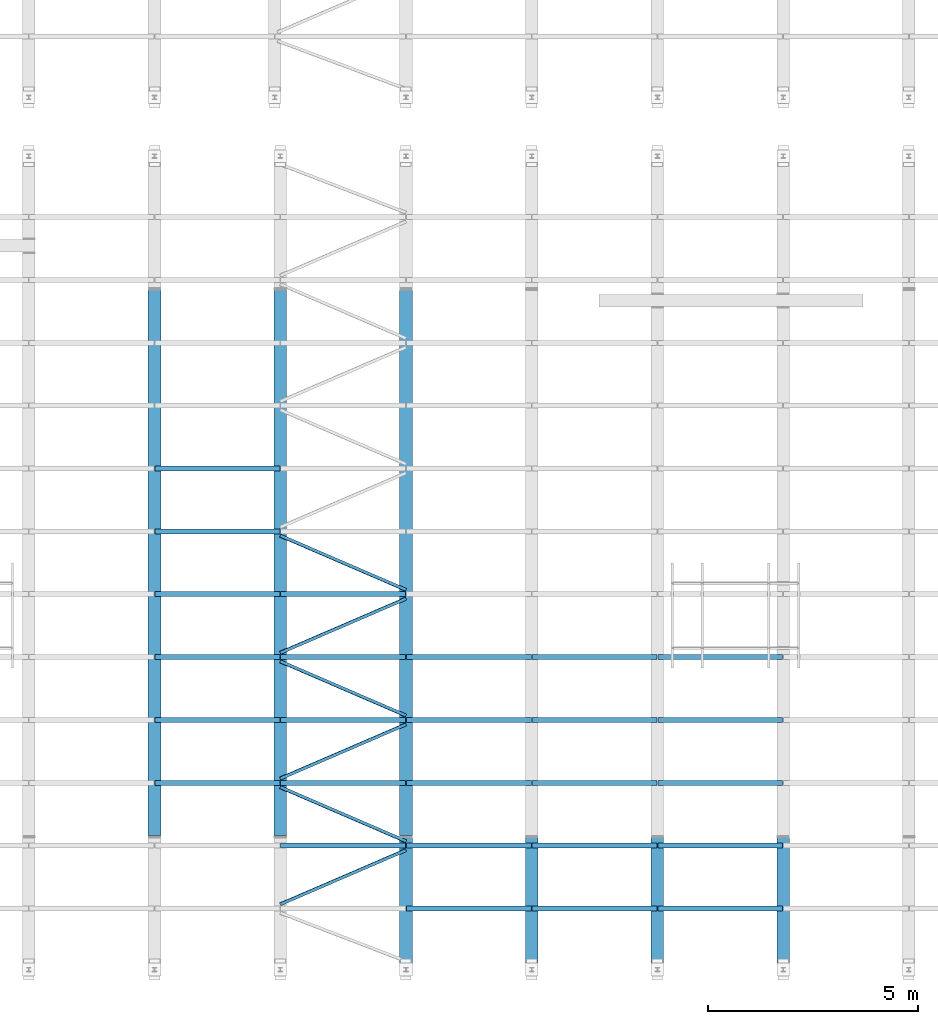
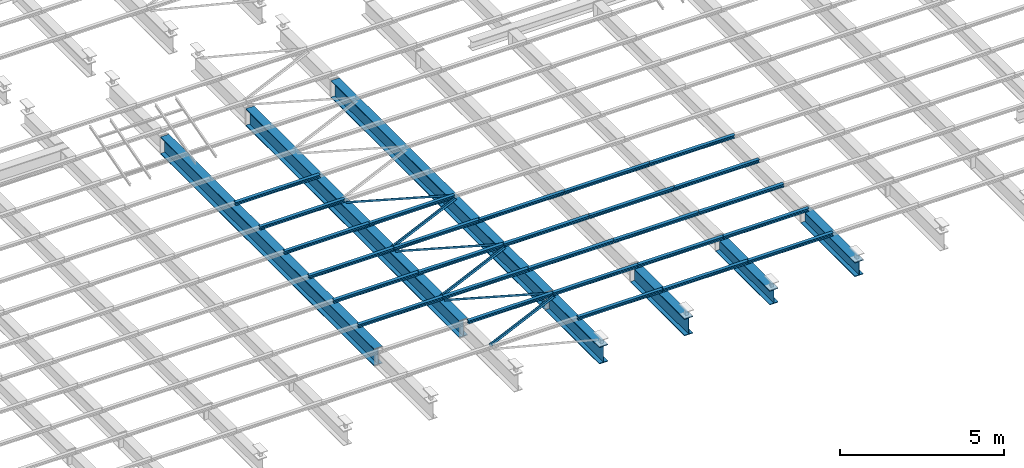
# One storey, part 44 of 139: 39 beams.
"""IFC2X3 building model written with IfcOpenShell, lengths in metres."""

from ifc_helpers import new_model, entity, si_unit, converted_unit, derived_unit, frame, origin, place, context, subcontext, project, spatial, polyline, outline, extrude, material, element, save


model = new_model("IFC2X3")

# Units and contexts
model_context = context("Model", 3, precision=1e-05, world=origin())
body_context = subcontext(model_context, "Body", "Model", "MODEL_VIEW")
ifc_project = project(units=[si_unit("LENGTHUNIT", "METRE"), si_unit("AREAUNIT", "SQUARE_METRE"), si_unit("VOLUMEUNIT", "CUBIC_METRE"), si_unit("MASSUNIT", "GRAM", prefix="KILO"), converted_unit("PLANEANGLEUNIT", "DEGREE", entity("IfcPlaneAngleMeasure", 0.0174532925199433), si_unit("PLANEANGLEUNIT", "RADIAN"), dimensions=[0, 0, 0, 0, 0, 0, 0]), derived_unit("THERMALTRANSMITTANCEUNIT", [(si_unit("POWERUNIT", "WATT"), 1), (si_unit("THERMODYNAMICTEMPERATUREUNIT", "KELVIN"), -1), (si_unit("LENGTHUNIT", "METRE"), -2)]), derived_unit("VOLUMETRICFLOWRATEUNIT", [(si_unit("LENGTHUNIT", "METRE"), 3), (converted_unit("TIMEUNIT", "hour", entity("IfcTimeMeasure", 3600.0), si_unit("TIMEUNIT", "SECOND"), dimensions=[0, 0, 1, 0, 0, 0, 0]), -1), (si_unit("LENGTHUNIT", "METRE"), -1)])], contexts=[model_context])

# Site, building, storey
site_placement = place(None, origin())
site = spatial("IfcSite", under=ifc_project, at=site_placement, Name="TWP_Speiseverteilzentrum SBW VZ II", CompositionType="ELEMENT")
building_placement = place(site_placement, origin())
building = spatial("IfcBuilding", under=site, at=building_placement, Name="Speiseverteilzentrum SBW VZ II", CompositionType="ELEMENT")
storey_placement = place(building_placement, frame((0.0, 0.0, 7.1307)))
storey = spatial("IfcBuildingStorey", under=building, at=storey_placement, Name="Wartung_FFB", CompositionType="ELEMENT", Elevation=7.1307)

# Beams
ifc_material_1 = material(Name="S235")
beam_1_placement = place(storey_placement, frame((43.0500000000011, 26.9020742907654, -0.51), z_axis=(0.0, 0.0, 1.0), x_axis=(-1.0, 0.0, 0.0)))
element("IfcBeam", 1, at=beam_1_placement, inside=storey, material=ifc_material_1, Name="Stahlträger", context=body_context, shape_type="SweptSolid", body=[
    extrude(outline(polyline([(-0.15, 0.32), (-0.15, 0.294), (-0.00675000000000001, 0.294), (-0.00675000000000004, -0.294), (-0.15, -0.294), (-0.15, -0.32), (0.15, -0.32), (0.15, -0.294), (0.00674999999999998, -0.294), (0.00675000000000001, 0.294), (0.15, 0.294), (0.15, 0.32), (-0.15, 0.32)])), frame((0.0, 0.0, 0.0), z_axis=(0.0, 1.0, 0.0), x_axis=(-1.0, 0.0, 0.0)), (0.0, 0.0, 1.0), 13.014),
])
ifc_material_2 = material(Name="S235")
beam_2_placement = place(storey_placement, frame((46.0500000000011, 26.9020742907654, -0.51), z_axis=(0.0, 0.0, 1.0), x_axis=(-1.0, 0.0, 0.0)))
element("IfcBeam", 2, at=beam_2_placement, inside=storey, material=ifc_material_2, Name="Stahlträger", context=body_context, shape_type="SweptSolid", body=[
    extrude(outline(polyline([(-0.15, 0.32), (-0.15, 0.294), (-0.00675000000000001, 0.294), (-0.00675000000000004, -0.294), (-0.15, -0.294), (-0.15, -0.32), (0.15, -0.32), (0.15, -0.294), (0.00674999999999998, -0.294), (0.00675000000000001, 0.294), (0.15, 0.294), (0.15, 0.32), (-0.15, 0.32)])), frame((0.0, 0.0, 0.0), z_axis=(0.0, 1.0, 0.0), x_axis=(-1.0, 0.0, 0.0)), (0.0, 0.0, 1.0), 13.014),
])
ifc_material_3 = material(Name="S235")
beam_3_placement = place(storey_placement, frame((49.0500000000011, 26.9020742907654, -0.51), z_axis=(0.0, 0.0, 1.0), x_axis=(-1.0, 0.0, 0.0)))
element("IfcBeam", 3, at=beam_3_placement, inside=storey, material=ifc_material_3, Name="Stahlträger", context=body_context, shape_type="SweptSolid", body=[
    extrude(outline(polyline([(-0.15, 0.32), (-0.15, 0.294), (-0.00675000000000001, 0.294), (-0.00675000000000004, -0.294), (-0.15, -0.294), (-0.15, -0.32), (0.15, -0.32), (0.15, -0.294), (0.00674999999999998, -0.294), (0.00675000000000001, 0.294), (0.15, 0.294), (0.15, 0.32), (-0.15, 0.32)])), frame((0.0, 0.0, 0.0), z_axis=(0.0, 1.0, 0.0), x_axis=(-1.0, 0.0, 0.0)), (0.0, 0.0, 1.0), 13.014),
])
ifc_material_4 = material(Name="S235")
beam_4_placement = place(storey_placement, frame((49.0500000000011, 13.8380742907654, -0.51), z_axis=(0.0, 0.0, 1.0), x_axis=(-1.0, 0.0, 0.0)))
element("IfcBeam", 4, at=beam_4_placement, inside=storey, material=ifc_material_4, Name="Stahlträger", context=body_context, shape_type="SweptSolid", body=[
    extrude(outline(polyline([(-0.15, 0.32), (-0.15, 0.294), (-0.00675000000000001, 0.294), (-0.00675000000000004, -0.294), (-0.15, -0.294), (-0.15, -0.32), (0.15, -0.32), (0.15, -0.294), (0.00674999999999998, -0.294), (0.00675000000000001, 0.294), (0.15, 0.294), (0.15, 0.32), (-0.15, 0.32)])), frame((0.0, 0.0, 0.0), z_axis=(0.0, 1.0, 0.0), x_axis=(-1.0, 0.0, 0.0)), (0.0, 0.0, 1.0), 3.29792570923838),
])
ifc_material_5 = material(Name="S235")
beam_5_placement = place(storey_placement, frame((52.0500000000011, 13.8380742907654, -0.51), z_axis=(0.0, 0.0, 1.0), x_axis=(-1.0, 0.0, 0.0)))
element("IfcBeam", 5, at=beam_5_placement, inside=storey, material=ifc_material_5, Name="Stahlträger", context=body_context, shape_type="SweptSolid", body=[
    extrude(outline(polyline([(-0.15, 0.32), (-0.15, 0.294), (-0.00675000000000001, 0.294), (-0.00675000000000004, -0.294), (-0.15, -0.294), (-0.15, -0.32), (0.15, -0.32), (0.15, -0.294), (0.00674999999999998, -0.294), (0.00675000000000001, 0.294), (0.15, 0.294), (0.15, 0.32), (-0.15, 0.32)])), frame((0.0, 0.0, 0.0), z_axis=(0.0, 1.0, 0.0), x_axis=(-1.0, 0.0, 0.0)), (0.0, 0.0, 1.0), 3.29792570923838),
])
ifc_material_6 = material(Name="S235")
beam_6_placement = place(storey_placement, frame((58.0500000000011, 13.8380742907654, -0.46), z_axis=(0.0, 0.0, 1.0), x_axis=(-1.0, 0.0, 0.0)))
element("IfcBeam", 6, at=beam_6_placement, inside=storey, material=ifc_material_6, Name="Stahlträger", context=body_context, shape_type="SweptSolid", body=[
    extrude(outline(polyline([(-0.15, 0.27), (-0.15, 0.246), (-0.0062499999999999, 0.246), (-0.00624999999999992, -0.246), (-0.15, -0.246), (-0.15, -0.27), (0.15, -0.27), (0.15, -0.246), (0.00625000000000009, -0.246), (0.00625000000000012, 0.246), (0.15, 0.246), (0.15, 0.27), (-0.15, 0.27)])), frame((0.0, 0.0, 0.0), z_axis=(0.0, 1.0, 0.0), x_axis=(-1.0, 0.0, 0.0)), (0.0, 0.0, 1.0), 3.29792570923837),
])
ifc_material_7 = material(Name="S235")
beam_7_placement = place(storey_placement, frame((55.0500000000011, 13.8380742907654, -0.46), z_axis=(0.0, 0.0, 1.0), x_axis=(-1.0, 0.0, 0.0)))
element("IfcBeam", 7, at=beam_7_placement, inside=storey, material=ifc_material_7, Name="Stahlträger", context=body_context, shape_type="SweptSolid", body=[
    extrude(outline(polyline([(-0.15, 0.27), (-0.15, 0.246), (-0.0062499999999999, 0.246), (-0.00624999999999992, -0.246), (-0.15, -0.246), (-0.15, -0.27), (0.15, -0.27), (0.15, -0.246), (0.00625000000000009, -0.246), (0.00625000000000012, 0.246), (0.15, 0.246), (0.15, 0.27), (-0.15, 0.27)])), frame((0.0, 0.0, 0.0), z_axis=(0.0, 1.0, 0.0), x_axis=(-1.0, 0.0, 0.0)), (0.0, 0.0, 1.0), 3.29792570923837),
])
ifc_material_8 = material(Name="S235")
beam_8_placement = place(storey_placement, frame((43.0600000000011, 22.6450742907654, -0.133), z_axis=(0.0, 0.0, 1.0), x_axis=(0.0, -1.0, 0.0)))
element("IfcBeam", 8, at=beam_8_placement, inside=storey, material=ifc_material_8, Name="Nebenträger", context=body_context, shape_type="SweptSolid", body=[
    extrude(outline(polyline([(-0.06, 0.0570000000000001), (-0.06, 0.0490000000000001), (-0.00249999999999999, 0.0490000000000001), (-0.0025, -0.0489999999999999), (-0.06, -0.0489999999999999), (-0.06, -0.0569999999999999), (0.06, -0.0569999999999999), (0.06, -0.0489999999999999), (0.0025, -0.0489999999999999), (0.00250000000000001, 0.0490000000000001), (0.06, 0.0490000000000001), (0.06, 0.0570000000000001), (-0.06, 0.0570000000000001)])), frame((0.0, 0.0, 0.0), z_axis=(0.0, 1.0, 0.0), x_axis=(-1.0, 0.0, 0.0)), (0.0, 0.0, 1.0), 2.98),
])
ifc_material_9 = material(Name="S235")
beam_9_placement = place(storey_placement, frame((43.0600000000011, 21.1450742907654, -0.133), z_axis=(0.0, 0.0, 1.0), x_axis=(0.0, -1.0, 0.0)))
element("IfcBeam", 9, at=beam_9_placement, inside=storey, material=ifc_material_9, Name="Nebenträger", context=body_context, shape_type="SweptSolid", body=[
    extrude(outline(polyline([(-0.06, 0.0570000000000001), (-0.06, 0.0490000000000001), (-0.00249999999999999, 0.0490000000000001), (-0.0025, -0.0489999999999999), (-0.06, -0.0489999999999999), (-0.06, -0.0569999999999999), (0.06, -0.0569999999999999), (0.06, -0.0489999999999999), (0.0025, -0.0489999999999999), (0.00250000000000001, 0.0490000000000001), (0.06, 0.0490000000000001), (0.06, 0.0570000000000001), (-0.06, 0.0570000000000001)])), frame((0.0, 0.0, 0.0), z_axis=(0.0, 1.0, 0.0), x_axis=(-1.0, 0.0, 0.0)), (0.0, 0.0, 1.0), 2.98),
])
ifc_material_10 = material(Name="S235")
beam_10_placement = place(storey_placement, frame((43.0600000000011, 19.6450742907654, -0.133), z_axis=(0.0, 0.0, 1.0), x_axis=(0.0, -1.0, 0.0)))
element("IfcBeam", 10, at=beam_10_placement, inside=storey, material=ifc_material_10, Name="Nebenträger", context=body_context, shape_type="SweptSolid", body=[
    extrude(outline(polyline([(-0.06, 0.0570000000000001), (-0.06, 0.0490000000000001), (-0.00249999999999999, 0.0490000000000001), (-0.0025, -0.0489999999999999), (-0.06, -0.0489999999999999), (-0.06, -0.0569999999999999), (0.06, -0.0569999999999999), (0.06, -0.0489999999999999), (0.0025, -0.0489999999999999), (0.00250000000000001, 0.0490000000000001), (0.06, 0.0490000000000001), (0.06, 0.0570000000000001), (-0.06, 0.0570000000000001)])), frame((0.0, 0.0, 0.0), z_axis=(0.0, 1.0, 0.0), x_axis=(-1.0, 0.0, 0.0)), (0.0, 0.0, 1.0), 2.98),
])
ifc_material_11 = material(Name="S235")
beam_11_placement = place(storey_placement, frame((46.0600000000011, 19.6450742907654, -0.133), z_axis=(0.0, 0.0, 1.0), x_axis=(0.0, -1.0, 0.0)))
element("IfcBeam", 11, at=beam_11_placement, inside=storey, material=ifc_material_11, Name="Nebenträger", context=body_context, shape_type="SweptSolid", body=[
    extrude(outline(polyline([(-0.06, 0.0570000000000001), (-0.06, 0.0490000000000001), (-0.00249999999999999, 0.0490000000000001), (-0.0025, -0.0489999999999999), (-0.06, -0.0489999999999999), (-0.06, -0.0569999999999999), (0.06, -0.0569999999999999), (0.06, -0.0489999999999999), (0.0025, -0.0489999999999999), (0.00250000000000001, 0.0490000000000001), (0.06, 0.0490000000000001), (0.06, 0.0570000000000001), (-0.06, 0.0570000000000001)])), frame((0.0, 0.0, 0.0), z_axis=(0.0, 1.0, 0.0), x_axis=(-1.0, 0.0, 0.0)), (0.0, 0.0, 1.0), 2.98),
])
ifc_material_12 = material(Name="S235")
beam_12_placement = place(storey_placement, frame((43.0600000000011, 18.1450742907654, -0.133), z_axis=(0.0, 0.0, 1.0), x_axis=(0.0, -1.0, 0.0)))
element("IfcBeam", 12, at=beam_12_placement, inside=storey, material=ifc_material_12, Name="Nebenträger", context=body_context, shape_type="SweptSolid", body=[
    extrude(outline(polyline([(-0.06, 0.0570000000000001), (-0.06, 0.0490000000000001), (-0.00249999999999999, 0.0490000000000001), (-0.0025, -0.0489999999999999), (-0.06, -0.0489999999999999), (-0.06, -0.0569999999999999), (0.06, -0.0569999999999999), (0.06, -0.0489999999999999), (0.0025, -0.0489999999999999), (0.00250000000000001, 0.0490000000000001), (0.06, 0.0490000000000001), (0.06, 0.0570000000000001), (-0.06, 0.0570000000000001)])), frame((0.0, 0.0, 0.0), z_axis=(0.0, 1.0, 0.0), x_axis=(-1.0, 0.0, 0.0)), (0.0, 0.0, 1.0), 2.98),
])
ifc_material_13 = material(Name="S235")
beam_13_placement = place(storey_placement, frame((46.0600000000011, 18.1450742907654, -0.133), z_axis=(0.0, 0.0, 1.0), x_axis=(0.0, -1.0, 0.0)))
element("IfcBeam", 13, at=beam_13_placement, inside=storey, material=ifc_material_13, Name="Nebenträger", context=body_context, shape_type="SweptSolid", body=[
    extrude(outline(polyline([(-0.06, 0.0570000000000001), (-0.06, 0.0490000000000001), (-0.00249999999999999, 0.0490000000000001), (-0.0025, -0.0489999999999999), (-0.06, -0.0489999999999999), (-0.06, -0.0569999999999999), (0.06, -0.0569999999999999), (0.06, -0.0489999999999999), (0.0025, -0.0489999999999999), (0.00250000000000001, 0.0490000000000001), (0.06, 0.0490000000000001), (0.06, 0.0570000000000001), (-0.06, 0.0570000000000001)])), frame((0.0, 0.0, 0.0), z_axis=(0.0, 1.0, 0.0), x_axis=(-1.0, 0.0, 0.0)), (0.0, 0.0, 1.0), 2.98),
])
ifc_material_14 = material(Name="S235")
beam_14_placement = place(storey_placement, frame((49.0600000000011, 18.1450742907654, -0.133), z_axis=(0.0, 0.0, 1.0), x_axis=(0.0, -1.0, 0.0)))
element("IfcBeam", 14, at=beam_14_placement, inside=storey, material=ifc_material_14, Name="Nebenträger", context=body_context, shape_type="SweptSolid", body=[
    extrude(outline(polyline([(-0.06, 0.0570000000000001), (-0.06, 0.0490000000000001), (-0.00249999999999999, 0.0490000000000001), (-0.0025, -0.0489999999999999), (-0.06, -0.0489999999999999), (-0.06, -0.0569999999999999), (0.06, -0.0569999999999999), (0.06, -0.0489999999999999), (0.0025, -0.0489999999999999), (0.00250000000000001, 0.0490000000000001), (0.06, 0.0490000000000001), (0.06, 0.0570000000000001), (-0.06, 0.0570000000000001)])), frame((0.0, 0.0, 0.0), z_axis=(0.0, 1.0, 0.0), x_axis=(-1.0, 0.0, 0.0)), (0.0, 0.0, 1.0), 2.98),
])
ifc_material_15 = material(Name="S235")
beam_15_placement = place(storey_placement, frame((52.0600000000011, 18.1450742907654, -0.133), z_axis=(0.0, 0.0, 1.0), x_axis=(0.0, -1.0, 0.0)))
element("IfcBeam", 15, at=beam_15_placement, inside=storey, material=ifc_material_15, Name="Nebenträger", context=body_context, shape_type="SweptSolid", body=[
    extrude(outline(polyline([(-0.06, 0.0570000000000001), (-0.06, 0.0490000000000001), (-0.00249999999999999, 0.0490000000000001), (-0.0025, -0.0489999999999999), (-0.06, -0.0489999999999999), (-0.06, -0.0569999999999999), (0.06, -0.0569999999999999), (0.06, -0.0489999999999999), (0.0025, -0.0489999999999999), (0.00250000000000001, 0.0490000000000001), (0.06, 0.0490000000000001), (0.06, 0.0570000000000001), (-0.06, 0.0570000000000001)])), frame((0.0, 0.0, 0.0), z_axis=(0.0, 1.0, 0.0), x_axis=(-1.0, 0.0, 0.0)), (0.0, 0.0, 1.0), 2.98),
])
ifc_material_16 = material(Name="S235")
beam_16_placement = place(storey_placement, frame((55.0600000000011, 18.1450742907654, -0.133), z_axis=(0.0, 0.0, 1.0), x_axis=(0.0, -1.0, 0.0)))
element("IfcBeam", 16, at=beam_16_placement, inside=storey, material=ifc_material_16, Name="Nebenträger", context=body_context, shape_type="SweptSolid", body=[
    extrude(outline(polyline([(-0.06, 0.0570000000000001), (-0.06, 0.0490000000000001), (-0.00249999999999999, 0.0490000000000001), (-0.0025, -0.0489999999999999), (-0.06, -0.0489999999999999), (-0.06, -0.0569999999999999), (0.06, -0.0569999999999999), (0.06, -0.0489999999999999), (0.0025, -0.0489999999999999), (0.00250000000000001, 0.0490000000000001), (0.06, 0.0490000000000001), (0.06, 0.0570000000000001), (-0.06, 0.0570000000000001)])), frame((0.0, 0.0, 0.0), z_axis=(0.0, 1.0, 0.0), x_axis=(-1.0, 0.0, 0.0)), (0.0, 0.0, 1.0), 2.98),
])
ifc_material_17 = material(Name="S235")
beam_17_placement = place(storey_placement, frame((43.0600000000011, 16.6450742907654, -0.133), z_axis=(0.0, 0.0, 1.0), x_axis=(0.0, -1.0, 0.0)))
element("IfcBeam", 17, at=beam_17_placement, inside=storey, material=ifc_material_17, Name="Nebenträger", context=body_context, shape_type="SweptSolid", body=[
    extrude(outline(polyline([(-0.06, 0.0570000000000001), (-0.06, 0.0490000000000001), (-0.00249999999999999, 0.0490000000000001), (-0.0025, -0.0489999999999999), (-0.06, -0.0489999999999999), (-0.06, -0.0569999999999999), (0.06, -0.0569999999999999), (0.06, -0.0489999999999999), (0.0025, -0.0489999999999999), (0.00250000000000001, 0.0490000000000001), (0.06, 0.0490000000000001), (0.06, 0.0570000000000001), (-0.06, 0.0570000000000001)])), frame((0.0, 0.0, 0.0), z_axis=(0.0, 1.0, 0.0), x_axis=(-1.0, 0.0, 0.0)), (0.0, 0.0, 1.0), 2.98),
])
ifc_material_18 = material(Name="S235")
beam_18_placement = place(storey_placement, frame((46.0600000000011, 16.6450742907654, -0.133), z_axis=(0.0, 0.0, 1.0), x_axis=(0.0, -1.0, 0.0)))
element("IfcBeam", 18, at=beam_18_placement, inside=storey, material=ifc_material_18, Name="Nebenträger", context=body_context, shape_type="SweptSolid", body=[
    extrude(outline(polyline([(-0.06, 0.0570000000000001), (-0.06, 0.0490000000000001), (-0.00249999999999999, 0.0490000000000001), (-0.0025, -0.0489999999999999), (-0.06, -0.0489999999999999), (-0.06, -0.0569999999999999), (0.06, -0.0569999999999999), (0.06, -0.0489999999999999), (0.0025, -0.0489999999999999), (0.00250000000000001, 0.0490000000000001), (0.06, 0.0490000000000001), (0.06, 0.0570000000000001), (-0.06, 0.0570000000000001)])), frame((0.0, 0.0, 0.0), z_axis=(0.0, 1.0, 0.0), x_axis=(-1.0, 0.0, 0.0)), (0.0, 0.0, 1.0), 2.98),
])
ifc_material_19 = material(Name="S235")
beam_19_placement = place(storey_placement, frame((49.0600000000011, 16.6450742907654, -0.133), z_axis=(0.0, 0.0, 1.0), x_axis=(0.0, -1.0, 0.0)))
element("IfcBeam", 19, at=beam_19_placement, inside=storey, material=ifc_material_19, Name="Nebenträger", context=body_context, shape_type="SweptSolid", body=[
    extrude(outline(polyline([(-0.06, 0.0570000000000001), (-0.06, 0.0490000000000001), (-0.00249999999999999, 0.0490000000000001), (-0.0025, -0.0489999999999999), (-0.06, -0.0489999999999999), (-0.06, -0.0569999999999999), (0.06, -0.0569999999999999), (0.06, -0.0489999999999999), (0.0025, -0.0489999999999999), (0.00250000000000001, 0.0490000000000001), (0.06, 0.0490000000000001), (0.06, 0.0570000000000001), (-0.06, 0.0570000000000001)])), frame((0.0, 0.0, 0.0), z_axis=(0.0, 1.0, 0.0), x_axis=(-1.0, 0.0, 0.0)), (0.0, 0.0, 1.0), 2.98),
])
ifc_material_20 = material(Name="S235")
beam_20_placement = place(storey_placement, frame((52.0600000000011, 16.6450742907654, -0.133), z_axis=(0.0, 0.0, 1.0), x_axis=(0.0, -1.0, 0.0)))
element("IfcBeam", 20, at=beam_20_placement, inside=storey, material=ifc_material_20, Name="Nebenträger", context=body_context, shape_type="SweptSolid", body=[
    extrude(outline(polyline([(-0.06, 0.0570000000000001), (-0.06, 0.0490000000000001), (-0.00249999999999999, 0.0490000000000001), (-0.0025, -0.0489999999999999), (-0.06, -0.0489999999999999), (-0.06, -0.0569999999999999), (0.06, -0.0569999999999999), (0.06, -0.0489999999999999), (0.0025, -0.0489999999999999), (0.00250000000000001, 0.0490000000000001), (0.06, 0.0490000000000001), (0.06, 0.0570000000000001), (-0.06, 0.0570000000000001)])), frame((0.0, 0.0, 0.0), z_axis=(0.0, 1.0, 0.0), x_axis=(-1.0, 0.0, 0.0)), (0.0, 0.0, 1.0), 2.98),
])
ifc_material_21 = material(Name="S235")
beam_21_placement = place(storey_placement, frame((55.0600000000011, 16.6450742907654, -0.133), z_axis=(0.0, 0.0, 1.0), x_axis=(0.0, -1.0, 0.0)))
element("IfcBeam", 21, at=beam_21_placement, inside=storey, material=ifc_material_21, Name="Nebenträger", context=body_context, shape_type="SweptSolid", body=[
    extrude(outline(polyline([(-0.06, 0.0570000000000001), (-0.06, 0.0490000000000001), (-0.00249999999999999, 0.0490000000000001), (-0.0025, -0.0489999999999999), (-0.06, -0.0489999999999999), (-0.06, -0.0569999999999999), (0.06, -0.0569999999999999), (0.06, -0.0489999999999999), (0.0025, -0.0489999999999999), (0.00250000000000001, 0.0490000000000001), (0.06, 0.0490000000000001), (0.06, 0.0570000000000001), (-0.06, 0.0570000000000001)])), frame((0.0, 0.0, 0.0), z_axis=(0.0, 1.0, 0.0), x_axis=(-1.0, 0.0, 0.0)), (0.0, 0.0, 1.0), 2.98),
])
ifc_material_22 = material(Name="S235")
beam_22_placement = place(storey_placement, frame((43.0600000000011, 15.1450742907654, -0.133), z_axis=(0.0, 0.0, 1.0), x_axis=(0.0, -1.0, 0.0)))
element("IfcBeam", 22, at=beam_22_placement, inside=storey, material=ifc_material_22, Name="Nebenträger", context=body_context, shape_type="SweptSolid", body=[
    extrude(outline(polyline([(-0.06, 0.0570000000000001), (-0.06, 0.0490000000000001), (-0.00249999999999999, 0.0490000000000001), (-0.0025, -0.0489999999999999), (-0.06, -0.0489999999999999), (-0.06, -0.0569999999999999), (0.06, -0.0569999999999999), (0.06, -0.0489999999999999), (0.0025, -0.0489999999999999), (0.00250000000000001, 0.0490000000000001), (0.06, 0.0490000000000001), (0.06, 0.0570000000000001), (-0.06, 0.0570000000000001)])), frame((0.0, 0.0, 0.0), z_axis=(0.0, 1.0, 0.0), x_axis=(-1.0, 0.0, 0.0)), (0.0, 0.0, 1.0), 2.98),
])
ifc_material_23 = material(Name="S235")
beam_23_placement = place(storey_placement, frame((46.0600000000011, 15.1450742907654, -0.133), z_axis=(0.0, 0.0, 1.0), x_axis=(0.0, -1.0, 0.0)))
element("IfcBeam", 23, at=beam_23_placement, inside=storey, material=ifc_material_23, Name="Nebenträger", context=body_context, shape_type="SweptSolid", body=[
    extrude(outline(polyline([(-0.06, 0.0570000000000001), (-0.06, 0.0490000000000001), (-0.00249999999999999, 0.0490000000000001), (-0.0025, -0.0489999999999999), (-0.06, -0.0489999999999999), (-0.06, -0.0569999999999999), (0.06, -0.0569999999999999), (0.06, -0.0489999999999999), (0.0025, -0.0489999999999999), (0.00250000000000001, 0.0490000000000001), (0.06, 0.0490000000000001), (0.06, 0.0570000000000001), (-0.06, 0.0570000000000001)])), frame((0.0, 0.0, 0.0), z_axis=(0.0, 1.0, 0.0), x_axis=(-1.0, 0.0, 0.0)), (0.0, 0.0, 1.0), 2.98),
])
ifc_material_24 = material(Name="S235")
beam_24_placement = place(storey_placement, frame((49.0600000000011, 15.1450742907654, -0.133), z_axis=(0.0, 0.0, 1.0), x_axis=(0.0, -1.0, 0.0)))
element("IfcBeam", 24, at=beam_24_placement, inside=storey, material=ifc_material_24, Name="Nebenträger", context=body_context, shape_type="SweptSolid", body=[
    extrude(outline(polyline([(-0.06, 0.0570000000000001), (-0.06, 0.0490000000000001), (-0.00249999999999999, 0.0490000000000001), (-0.0025, -0.0489999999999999), (-0.06, -0.0489999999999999), (-0.06, -0.0569999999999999), (0.06, -0.0569999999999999), (0.06, -0.0489999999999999), (0.0025, -0.0489999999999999), (0.00250000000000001, 0.0490000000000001), (0.06, 0.0490000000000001), (0.06, 0.0570000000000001), (-0.06, 0.0570000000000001)])), frame((0.0, 0.0, 0.0), z_axis=(0.0, 1.0, 0.0), x_axis=(-1.0, 0.0, 0.0)), (0.0, 0.0, 1.0), 2.98),
])
ifc_material_25 = material(Name="S235")
beam_25_placement = place(storey_placement, frame((52.0600000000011, 15.1450742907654, -0.133), z_axis=(0.0, 0.0, 1.0), x_axis=(0.0, -1.0, 0.0)))
element("IfcBeam", 25, at=beam_25_placement, inside=storey, material=ifc_material_25, Name="Nebenträger", context=body_context, shape_type="SweptSolid", body=[
    extrude(outline(polyline([(-0.06, 0.0570000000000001), (-0.06, 0.0490000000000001), (-0.00249999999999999, 0.0490000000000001), (-0.0025, -0.0489999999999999), (-0.06, -0.0489999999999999), (-0.06, -0.0569999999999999), (0.06, -0.0569999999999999), (0.06, -0.0489999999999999), (0.0025, -0.0489999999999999), (0.00250000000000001, 0.0490000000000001), (0.06, 0.0490000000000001), (0.06, 0.0570000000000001), (-0.06, 0.0570000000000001)])), frame((0.0, 0.0, 0.0), z_axis=(0.0, 1.0, 0.0), x_axis=(-1.0, 0.0, 0.0)), (0.0, 0.0, 1.0), 2.98),
])
ifc_material_26 = material(Name="S235")
beam_26_placement = place(storey_placement, frame((55.0600000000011, 15.1450742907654, -0.133), z_axis=(0.0, 0.0, 1.0), x_axis=(0.0, -1.0, 0.0)))
element("IfcBeam", 26, at=beam_26_placement, inside=storey, material=ifc_material_26, Name="Nebenträger", context=body_context, shape_type="SweptSolid", body=[
    extrude(outline(polyline([(-0.06, 0.0570000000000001), (-0.06, 0.0490000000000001), (-0.00249999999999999, 0.0490000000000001), (-0.0025, -0.0489999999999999), (-0.06, -0.0489999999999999), (-0.06, -0.0569999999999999), (0.06, -0.0569999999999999), (0.06, -0.0489999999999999), (0.0025, -0.0489999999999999), (0.00250000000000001, 0.0490000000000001), (0.06, 0.0490000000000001), (0.06, 0.0570000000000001), (-0.06, 0.0570000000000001)])), frame((0.0, 0.0, 0.0), z_axis=(0.0, 1.0, 0.0), x_axis=(-1.0, 0.0, 0.0)), (0.0, 0.0, 1.0), 2.98),
])
ifc_material_27 = material(Name="S235")
beam_27_placement = place(storey_placement, frame((46.0600000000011, 13.6450742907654, -0.133), z_axis=(0.0, 0.0, 1.0), x_axis=(0.0, -1.0, 0.0)))
element("IfcBeam", 27, at=beam_27_placement, inside=storey, material=ifc_material_27, Name="Nebenträger", context=body_context, shape_type="SweptSolid", body=[
    extrude(outline(polyline([(-0.06, 0.0570000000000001), (-0.06, 0.0490000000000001), (-0.00249999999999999, 0.0490000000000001), (-0.0025, -0.0489999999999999), (-0.06, -0.0489999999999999), (-0.06, -0.0569999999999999), (0.06, -0.0569999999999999), (0.06, -0.0489999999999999), (0.0025, -0.0489999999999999), (0.00250000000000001, 0.0490000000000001), (0.06, 0.0490000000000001), (0.06, 0.0570000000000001), (-0.06, 0.0570000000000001)])), frame((0.0, 0.0, 0.0), z_axis=(0.0, 1.0, 0.0), x_axis=(-1.0, 0.0, 0.0)), (0.0, 0.0, 1.0), 2.98),
])
ifc_material_28 = material(Name="S235")
beam_28_placement = place(storey_placement, frame((49.0600000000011, 13.6450742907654, -0.133), z_axis=(0.0, 0.0, 1.0), x_axis=(0.0, -1.0, 0.0)))
element("IfcBeam", 28, at=beam_28_placement, inside=storey, material=ifc_material_28, Name="Nebenträger", context=body_context, shape_type="SweptSolid", body=[
    extrude(outline(polyline([(-0.06, 0.0570000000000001), (-0.06, 0.0490000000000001), (-0.00249999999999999, 0.0490000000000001), (-0.0025, -0.0489999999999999), (-0.06, -0.0489999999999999), (-0.06, -0.0569999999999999), (0.06, -0.0569999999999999), (0.06, -0.0489999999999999), (0.0025, -0.0489999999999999), (0.00250000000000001, 0.0490000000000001), (0.06, 0.0490000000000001), (0.06, 0.0570000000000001), (-0.06, 0.0570000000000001)])), frame((0.0, 0.0, 0.0), z_axis=(0.0, 1.0, 0.0), x_axis=(-1.0, 0.0, 0.0)), (0.0, 0.0, 1.0), 2.98),
])
ifc_material_29 = material(Name="S235")
beam_29_placement = place(storey_placement, frame((52.0600000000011, 13.6450742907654, -0.133), z_axis=(0.0, 0.0, 1.0), x_axis=(0.0, -1.0, 0.0)))
element("IfcBeam", 29, at=beam_29_placement, inside=storey, material=ifc_material_29, Name="Nebenträger", context=body_context, shape_type="SweptSolid", body=[
    extrude(outline(polyline([(-0.06, 0.0570000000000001), (-0.06, 0.0490000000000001), (-0.00249999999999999, 0.0490000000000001), (-0.0025, -0.0489999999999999), (-0.06, -0.0489999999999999), (-0.06, -0.0569999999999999), (0.06, -0.0569999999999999), (0.06, -0.0489999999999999), (0.0025, -0.0489999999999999), (0.00250000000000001, 0.0490000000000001), (0.06, 0.0490000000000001), (0.06, 0.0570000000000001), (-0.06, 0.0570000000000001)])), frame((0.0, 0.0, 0.0), z_axis=(0.0, 1.0, 0.0), x_axis=(-1.0, 0.0, 0.0)), (0.0, 0.0, 1.0), 2.98),
])
ifc_material_30 = material(Name="S235")
beam_30_placement = place(storey_placement, frame((55.0600000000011, 13.6450742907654, -0.133), z_axis=(0.0, 0.0, 1.0), x_axis=(0.0, -1.0, 0.0)))
element("IfcBeam", 30, at=beam_30_placement, inside=storey, material=ifc_material_30, Name="Nebenträger", context=body_context, shape_type="SweptSolid", body=[
    extrude(outline(polyline([(-0.06, 0.0570000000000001), (-0.06, 0.0490000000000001), (-0.00249999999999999, 0.0490000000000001), (-0.0025, -0.0489999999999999), (-0.06, -0.0489999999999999), (-0.06, -0.0569999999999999), (0.06, -0.0569999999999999), (0.06, -0.0489999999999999), (0.0025, -0.0489999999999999), (0.00250000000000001, 0.0490000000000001), (0.06, 0.0490000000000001), (0.06, 0.0570000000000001), (-0.06, 0.0570000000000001)])), frame((0.0, 0.0, 0.0), z_axis=(0.0, 1.0, 0.0), x_axis=(-1.0, 0.0, 0.0)), (0.0, 0.0, 1.0), 2.98),
])
ifc_material_31 = material(Name="S235")
beam_31_placement = place(storey_placement, frame((49.0600000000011, 12.1450742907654, -0.133), z_axis=(0.0, 0.0, 1.0), x_axis=(0.0, -1.0, 0.0)))
element("IfcBeam", 31, at=beam_31_placement, inside=storey, material=ifc_material_31, Name="Nebenträger", context=body_context, shape_type="SweptSolid", body=[
    extrude(outline(polyline([(-0.06, 0.0570000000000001), (-0.06, 0.0490000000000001), (-0.00249999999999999, 0.0490000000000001), (-0.0025, -0.0489999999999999), (-0.06, -0.0489999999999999), (-0.06, -0.0569999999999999), (0.06, -0.0569999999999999), (0.06, -0.0489999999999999), (0.0025, -0.0489999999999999), (0.00250000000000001, 0.0490000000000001), (0.06, 0.0490000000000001), (0.06, 0.0570000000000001), (-0.06, 0.0570000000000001)])), frame((0.0, 0.0, 0.0), z_axis=(0.0, 1.0, 0.0), x_axis=(-1.0, 0.0, 0.0)), (0.0, 0.0, 1.0), 2.98),
])
ifc_material_32 = material(Name="S235")
beam_32_placement = place(storey_placement, frame((52.0600000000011, 12.1450742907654, -0.133), z_axis=(0.0, 0.0, 1.0), x_axis=(0.0, -1.0, 0.0)))
element("IfcBeam", 32, at=beam_32_placement, inside=storey, material=ifc_material_32, Name="Nebenträger", context=body_context, shape_type="SweptSolid", body=[
    extrude(outline(polyline([(-0.06, 0.0570000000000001), (-0.06, 0.0490000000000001), (-0.00249999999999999, 0.0490000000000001), (-0.0025, -0.0489999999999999), (-0.06, -0.0489999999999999), (-0.06, -0.0569999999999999), (0.06, -0.0569999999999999), (0.06, -0.0489999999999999), (0.0025, -0.0489999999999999), (0.00250000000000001, 0.0490000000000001), (0.06, 0.0490000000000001), (0.06, 0.0570000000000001), (-0.06, 0.0570000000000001)])), frame((0.0, 0.0, 0.0), z_axis=(0.0, 1.0, 0.0), x_axis=(-1.0, 0.0, 0.0)), (0.0, 0.0, 1.0), 2.98),
])
ifc_material_33 = material(Name="S235")
beam_33_placement = place(storey_placement, frame((55.0600000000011, 12.1450742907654, -0.133), z_axis=(0.0, 0.0, 1.0), x_axis=(0.0, -1.0, 0.0)))
element("IfcBeam", 33, at=beam_33_placement, inside=storey, material=ifc_material_33, Name="Nebenträger", context=body_context, shape_type="SweptSolid", body=[
    extrude(outline(polyline([(-0.06, 0.0570000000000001), (-0.06, 0.0490000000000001), (-0.00249999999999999, 0.0490000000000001), (-0.0025, -0.0489999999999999), (-0.06, -0.0489999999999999), (-0.06, -0.0569999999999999), (0.06, -0.0569999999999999), (0.06, -0.0489999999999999), (0.0025, -0.0489999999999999), (0.00250000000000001, 0.0490000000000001), (0.06, 0.0490000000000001), (0.06, 0.0570000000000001), (-0.06, 0.0570000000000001)])), frame((0.0, 0.0, 0.0), z_axis=(0.0, 1.0, 0.0), x_axis=(-1.0, 0.0, 0.0)), (0.0, 0.0, 1.0), 2.98),
])
ifc_material_34 = material(Name="S235")
beam_34_placement = place(storey_placement, frame((46.0406913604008, 15.0266812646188, -0.167052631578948), z_axis=(0.0, 0.0, 1.0), x_axis=(-0.395932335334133, -0.918279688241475, 0.0)))
element("IfcBeam", 34, at=beam_34_placement, inside=storey, material=ifc_material_34, Name="Kreuzverband", context=body_context, shape_type="SweptSolid", body=[
    extrude(outline(polyline([(0.0570526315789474, -0.0229473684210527), (0.0570526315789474, -0.0149473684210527), (-0.0149473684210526, -0.0149473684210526), (-0.0149473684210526, 0.0570526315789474), (-0.0229473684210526, 0.0570526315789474), (-0.0229473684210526, -0.0229473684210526), (0.0570526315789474, -0.0229473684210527)])), frame((0.0, 0.0, 0.0), z_axis=(0.0, 1.00000000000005, 0.0), x_axis=(-1.0, 0.0, 0.0)), (0.0, 0.0, 1.0), 3.27000000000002),
])
ifc_material_35 = material(Name="S235")
beam_35_placement = place(storey_placement, frame((46.0406913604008, 15.2634673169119, -0.167052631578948), z_axis=(0.0, 0.0, 1.0), x_axis=(0.395932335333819, -0.91827968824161, 0.0)))
element("IfcBeam", 35, at=beam_35_placement, inside=storey, material=ifc_material_35, Name="Kreuzverband", context=body_context, shape_type="SweptSolid", body=[
    extrude(outline(polyline([(0.0229473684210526, -0.0229473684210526), (0.0229473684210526, 0.0570526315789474), (0.0149473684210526, 0.0570526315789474), (0.0149473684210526, -0.0149473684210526), (-0.0570526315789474, -0.0149473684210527), (-0.0570526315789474, -0.0229473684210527), (0.0229473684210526, -0.0229473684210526)])), frame((0.0, 0.0, 0.0), z_axis=(0.0, 0.999999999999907, 0.0), x_axis=(-1.0, 0.0, 0.0)), (0.0, 0.0, 1.0), 3.27000000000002),
])
ifc_material_36 = material(Name="S235")
beam_36_placement = place(storey_placement, frame((46.0406913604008, 18.0266812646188, -0.167052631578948), z_axis=(0.0, 0.0, 1.0), x_axis=(-0.395932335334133, -0.918279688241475, 0.0)))
element("IfcBeam", 36, at=beam_36_placement, inside=storey, material=ifc_material_36, Name="Kreuzverband", context=body_context, shape_type="SweptSolid", body=[
    extrude(outline(polyline([(0.0570526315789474, -0.0229473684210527), (0.0570526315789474, -0.0149473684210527), (-0.0149473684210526, -0.0149473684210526), (-0.0149473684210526, 0.0570526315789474), (-0.0229473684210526, 0.0570526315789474), (-0.0229473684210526, -0.0229473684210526), (0.0570526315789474, -0.0229473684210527)])), frame((0.0, 0.0, 0.0), z_axis=(0.0, 1.00000000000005, 0.0), x_axis=(-1.0, 0.0, 0.0)), (0.0, 0.0, 1.0), 3.27000000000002),
])
ifc_material_37 = material(Name="S235")
beam_37_placement = place(storey_placement, frame((46.0406913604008, 18.2634673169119, -0.167052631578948), z_axis=(0.0, 0.0, 1.0), x_axis=(0.395932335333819, -0.91827968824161, 0.0)))
element("IfcBeam", 37, at=beam_37_placement, inside=storey, material=ifc_material_37, Name="Kreuzverband", context=body_context, shape_type="SweptSolid", body=[
    extrude(outline(polyline([(0.0229473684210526, -0.0229473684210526), (0.0229473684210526, 0.0570526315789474), (0.0149473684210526, 0.0570526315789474), (0.0149473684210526, -0.0149473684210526), (-0.0570526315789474, -0.0149473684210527), (-0.0570526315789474, -0.0229473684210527), (0.0229473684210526, -0.0229473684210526)])), frame((0.0, 0.0, 0.0), z_axis=(0.0, 0.999999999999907, 0.0), x_axis=(-1.0, 0.0, 0.0)), (0.0, 0.0, 1.0), 3.27000000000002),
])
ifc_material_38 = material(Name="S235")
beam_38_placement = place(storey_placement, frame((46.0406913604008, 21.0266812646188, -0.167052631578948), z_axis=(0.0, 0.0, 1.0), x_axis=(-0.395932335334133, -0.918279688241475, 0.0)))
element("IfcBeam", 38, at=beam_38_placement, inside=storey, material=ifc_material_38, Name="Kreuzverband", context=body_context, shape_type="SweptSolid", body=[
    extrude(outline(polyline([(0.0570526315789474, -0.0229473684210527), (0.0570526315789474, -0.0149473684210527), (-0.0149473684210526, -0.0149473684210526), (-0.0149473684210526, 0.0570526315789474), (-0.0229473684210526, 0.0570526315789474), (-0.0229473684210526, -0.0229473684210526), (0.0570526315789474, -0.0229473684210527)])), frame((0.0, 0.0, 0.0), z_axis=(0.0, 1.00000000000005, 0.0), x_axis=(-1.0, 0.0, 0.0)), (0.0, 0.0, 1.0), 3.27000000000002),
])
ifc_material_39 = material(Name="S235")
beam_39_placement = place(storey_placement, frame((46.0406913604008, 12.2634673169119, -0.167052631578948), z_axis=(0.0, 0.0, 1.0), x_axis=(0.395932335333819, -0.91827968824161, 0.0)))
element("IfcBeam", 39, at=beam_39_placement, inside=storey, material=ifc_material_39, Name="Kreuzverband", context=body_context, shape_type="SweptSolid", body=[
    extrude(outline(polyline([(0.0229473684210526, -0.0229473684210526), (0.0229473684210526, 0.0570526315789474), (0.0149473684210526, 0.0570526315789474), (0.0149473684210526, -0.0149473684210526), (-0.0570526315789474, -0.0149473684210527), (-0.0570526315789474, -0.0229473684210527), (0.0229473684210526, -0.0229473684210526)])), frame((0.0, 0.0, 0.0), z_axis=(0.0, 0.999999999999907, 0.0), x_axis=(-1.0, 0.0, 0.0)), (0.0, 0.0, 1.0), 3.27000000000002),
])

save(model, "model.ifc")
